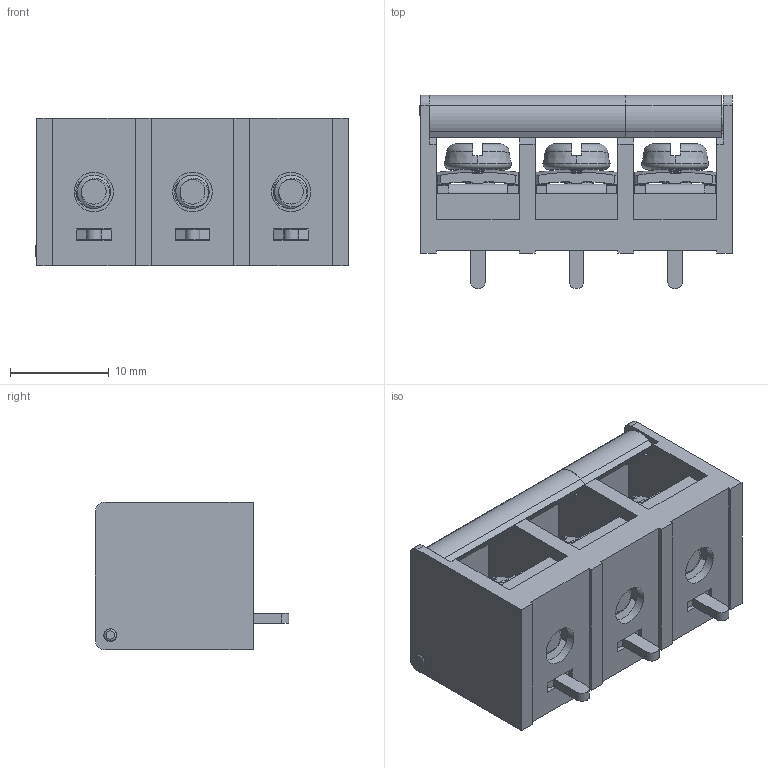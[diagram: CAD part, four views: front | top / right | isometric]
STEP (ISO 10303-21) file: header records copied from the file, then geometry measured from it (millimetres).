
FILE_DESCRIPTION((''),'2;1');
FILE_NAME('3PIN','2021-05-27T',('hanke'),(''),'CREO PARAMETRIC BY PTC INC, 2016260','CREO PARAMETRIC BY PTC INC, 2016260','');
FILE_SCHEMA(('CONFIG_CONTROL_DESIGN'));
Products named in the file (1): 3PIN
Bounding box: 31.7 x 19.6 x 15 mm (x, y, z)
Volume: 4409 mm3; surface area: 6616.6 mm2
Topology: 4 solids, 4 shells, 1085 faces, 3346 edges, 2194 vertices
Faces by surface type: plane 662, cylinder 293, bspline 78, torus 28, cone 24
Entity records: 56083 total; most frequent: CARTESIAN_POINT 27350, ORIENTED_EDGE 6680, DIRECTION 5147, EDGE_CURVE 3340, VERTEX_POINT 2194, VECTOR 1981, LINE 1981, AXIS2_PLACEMENT_3D 1583
